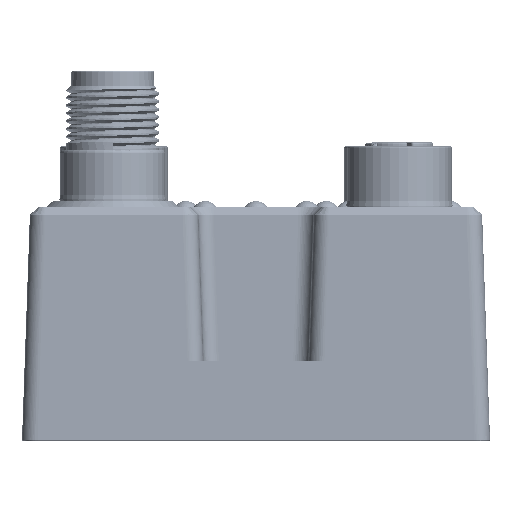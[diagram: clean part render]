
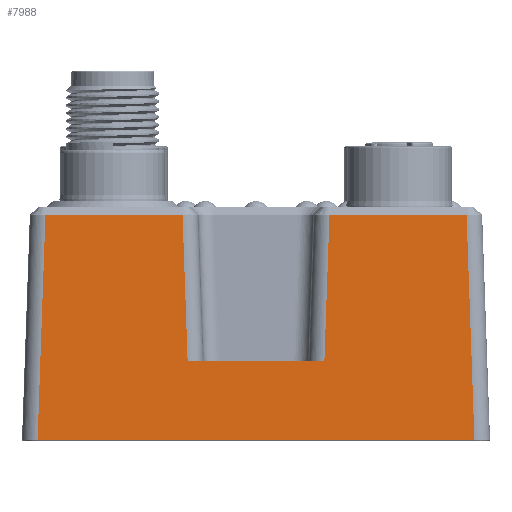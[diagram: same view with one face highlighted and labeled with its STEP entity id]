
A CAD part, front view. The second image highlights one B-rep face of the part: STEP entity #7988.
In plain terms, the highlighted planar face has unit normal (0, -0.999, 0.035).
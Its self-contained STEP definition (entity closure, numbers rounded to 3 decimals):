
#564=CARTESIAN_POINT('',(-26.988,-98.987,29.001));
#843=DIRECTION('',(0.035,-0.035,-0.999));
#844=VECTOR('',#843,18.723);
#845=CARTESIAN_POINT('',(-9.418,-98.987,29.001));
#846=LINE('',#845,#844);
#847=DIRECTION('',(1.,0.,0.));
#848=VECTOR('',#847,17.53);
#849=CARTESIAN_POINT('',(-8.765,-99.64,10.3));
#850=LINE('',#849,#848);
#851=DIRECTION('',(0.035,0.035,0.999));
#852=VECTOR('',#851,18.723);
#853=CARTESIAN_POINT('',(8.765,-99.64,10.3));
#854=LINE('',#853,#852);
#855=DIRECTION('',(0.035,-0.035,-0.999));
#856=VECTOR('',#855,28.829);
#857=CARTESIAN_POINT('',(26.988,-98.987,29.001));
#858=LINE('',#857,#856);
#859=DIRECTION('',(-1.,0.,0.));
#860=VECTOR('',#859,55.988);
#861=CARTESIAN_POINT('',(27.994,-99.993,0.207));
#862=LINE('',#861,#860);
#863=DIRECTION('',(0.035,0.035,0.999));
#864=VECTOR('',#863,28.829);
#865=CARTESIAN_POINT('',(-27.994,-99.993,
0.207));
#866=LINE('',#865,#864);
#927=CARTESIAN_POINT('',(8.765,-99.64,10.3));
#943=CARTESIAN_POINT('',(9.418,-98.987,29.001));
#965=DIRECTION('',(-1.,0.,0.));
#966=VECTOR('',#965,17.571);
#967=CARTESIAN_POINT('',(26.988,-98.987,29.001));
#968=LINE('',#967,#966);
#1329=DIRECTION('',(-1.,0.,0.));
#1330=VECTOR('',#1329,17.571);
#1331=CARTESIAN_POINT('',(-9.418,-98.987,
29.001));
#1332=LINE('',#1331,#1330);
#5651=CARTESIAN_POINT('',(27.994,-99.993,
0.207));
#5652=VERTEX_POINT('',#5651);
#5653=CARTESIAN_POINT('',(-27.994,-99.993,
0.207));
#5654=VERTEX_POINT('',#5653);
#5693=VERTEX_POINT('',#564);
#6012=VERTEX_POINT('',#927);
#6014=CARTESIAN_POINT('',(-8.765,-99.64,
10.3));
#6015=VERTEX_POINT('',#6014);
#6033=VERTEX_POINT('',#943);
#6036=CARTESIAN_POINT('',(26.988,-98.987,29.001));
#6037=VERTEX_POINT('',#6036);
#6038=CARTESIAN_POINT('',(-9.418,-98.987,
29.001));
#6039=VERTEX_POINT('',#6038);
#7968=CARTESIAN_POINT('',(-32.2,-100.,0.));
#7969=DIRECTION('',(0.,-0.999,0.035));
#7970=DIRECTION('',(1.,0.,0.));
#7971=AXIS2_PLACEMENT_3D('',#7968,#7969,#7970);
#7972=PLANE('',#7971);
#7974=ORIENTED_EDGE('',*,*,#7973,.T.);
#7976=ORIENTED_EDGE('',*,*,#7975,.T.);
#7978=ORIENTED_EDGE('',*,*,#7977,.T.);
#7980=ORIENTED_EDGE('',*,*,#7979,.F.);
#7981=ORIENTED_EDGE('',*,*,#7963,.T.);
#7982=ORIENTED_EDGE('',*,*,#7610,.T.);
#7983=ORIENTED_EDGE('',*,*,#7752,.T.);
#7985=ORIENTED_EDGE('',*,*,#7984,.F.);
#7986=EDGE_LOOP('',(#7974,#7976,#7978,#7980,#7981,#7982,#7983,#7985));
#7987=FACE_OUTER_BOUND('',#7986,.F.);
#7610=EDGE_CURVE('',#5652,#5654,#862,.T.);
#7752=EDGE_CURVE('',#5654,#5693,#866,.T.);
#7963=EDGE_CURVE('',#6037,#5652,#858,.T.);
#7973=EDGE_CURVE('',#6039,#6015,#846,.T.);
#7975=EDGE_CURVE('',#6015,#6012,#850,.T.);
#7977=EDGE_CURVE('',#6012,#6033,#854,.T.);
#7979=EDGE_CURVE('',#6037,#6033,#968,.T.);
#7984=EDGE_CURVE('',#6039,#5693,#1332,.T.);
#7988=ADVANCED_FACE('',(#7987),#7972,.T.);
